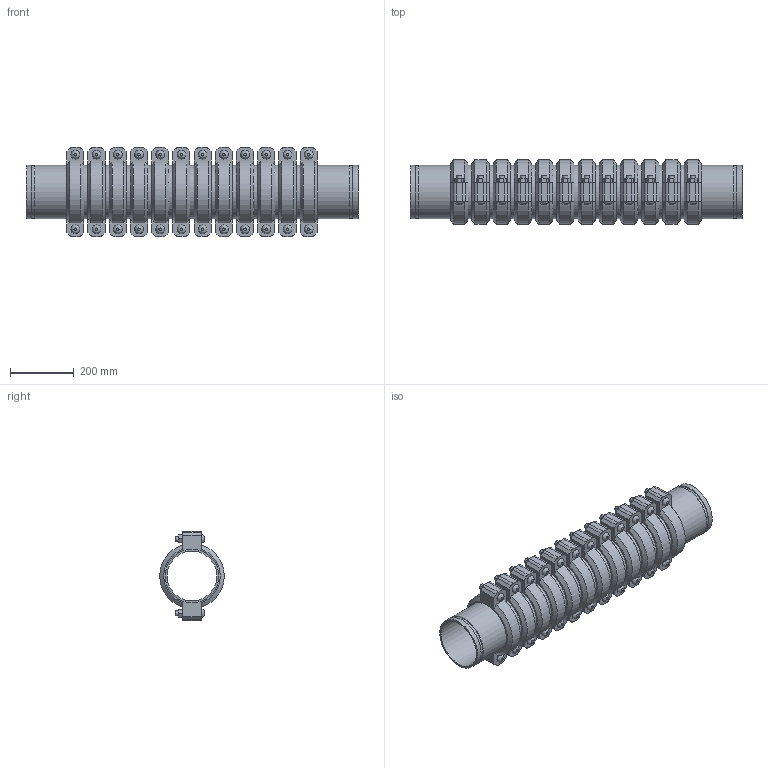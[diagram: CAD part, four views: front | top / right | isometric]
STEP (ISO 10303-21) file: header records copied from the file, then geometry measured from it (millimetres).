
FILE_DESCRIPTION(/* description */ ('VIC EXPANSION JOINT 12 COUPLINGS EXPANDED STYLE 155 (OGS)','CAx-IF Rec.Pracs.---Representation and Presentation of Product Manufacturing Information (PMI)---4.0---2014-10-13'),/* implementation_level */ '2;1');
FILE_NAME(/* name */ 'C:\Users\kkamble\AppData\Roaming\Autodesk\ApplicationPlugins\Victaulic.Temp\A519\Victaulic_IPS_Expansion Joint_Expanded_12 Couplings_Style 155 (OGS)_6 (150).stp',/* time_stamp */ '2021-06-26T23:54:45+02:00',/* author */ ('kkamble'),/* organization */ ('Victaulic'),/* preprocessor_version */ 'ST-DEVELOPER v17.2',/* originating_system */ 'Autodesk Inventor 2019',/* authorisation */ '');
FILE_SCHEMA (('AP242_MANAGED_MODEL_BASED_3D_ENGINEERING_MIM_LF { 1 0 10303 442 1 1 4 }'));
Length unit declared in the file: inch
Products named in the file (4): 155-06.0; Nipple-06.0; Nipple-06.0_1; 075-06.0
Assembly tree (25 placements, depth 2):
  155-06.0
    Nipple-06.0  x2
    Nipple-06.0_1  x11
    075-06.0  x12
Bounding box: 1045.21 x 202.46 x 281.18 mm (x, y, z)
Volume: 11640849.5 mm3; surface area: 2515552.3 mm2
Topology: 25 solids, 49 shells, 840 faces, 1986 edges, 1392 vertices
Faces by surface type: plane 510, cylinder 258, cone 48, bspline 24
Full cylindrical faces by diameter (mm): 15.875 x48, 17.424 x24, 157.15 x13, 161.925 x12, 163.957 x26, 168.275 x63
Entity records: 2913 total; most frequent: CARTESIAN_POINT 509, DIRECTION 493, ORIENTED_EDGE 386, AXIS2_PLACEMENT_3D 200, EDGE_CURVE 193, VERTEX_POINT 138, EDGE_LOOP 107, LINE 93
